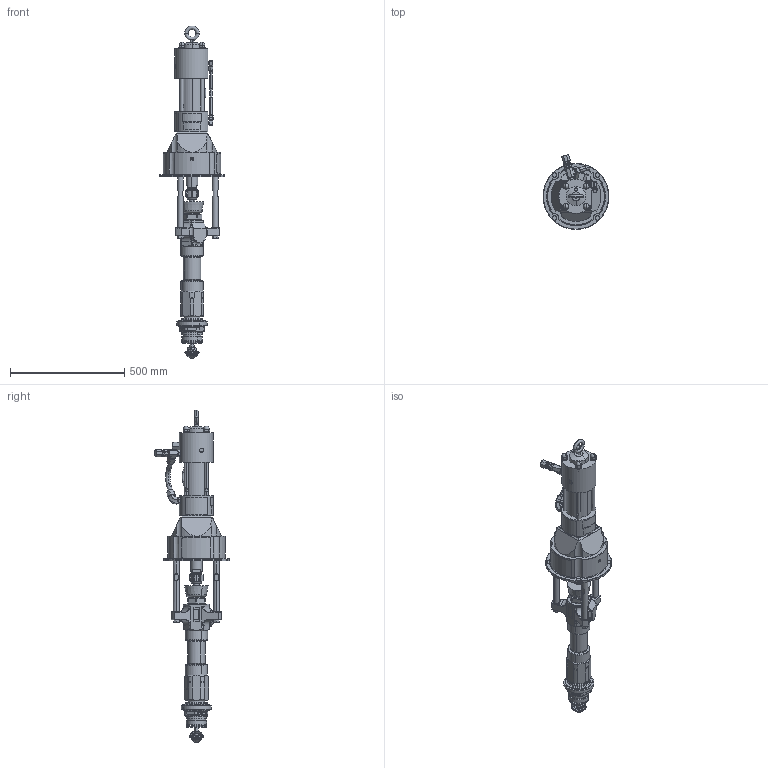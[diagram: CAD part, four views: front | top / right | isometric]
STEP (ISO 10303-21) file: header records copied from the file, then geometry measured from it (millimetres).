
FILE_DESCRIPTION((''),'2;1');
FILE_NAME('246938-EN-K_PRT','2022-10-27T14:09:23',('qusrh3'),(''),'CREO PARAMETRIC BY PTC INC, 2021072','CREO PARAMETRIC BY PTC INC, 2021072','');
FILE_SCHEMA(('CONFIG_CONTROL_DESIGN'));
Length unit declared in the file: inch
Products named in the file (1): 246938-EN-K_PRT
Bounding box: 289.05 x 327.56 x 1454.42 mm (x, y, z)
Surface area: 1238219.2 mm2 (no closed solid volume)
Topology: 0 solids, 134 shells, 936 faces, 2862 edges, 1969 vertices
Faces by surface type: plane 375, cone 253, cylinder 237, torus 44, bspline 19, revolution 8
Entity records: 35579 total; most frequent: CARTESIAN_POINT 11849, DIRECTION 4694, ORIENTED_EDGE 4597, EDGE_CURVE 2854, VERTEX_POINT 1970, AXIS2_PLACEMENT_3D 1773, VECTOR 1140, LINE 1140
